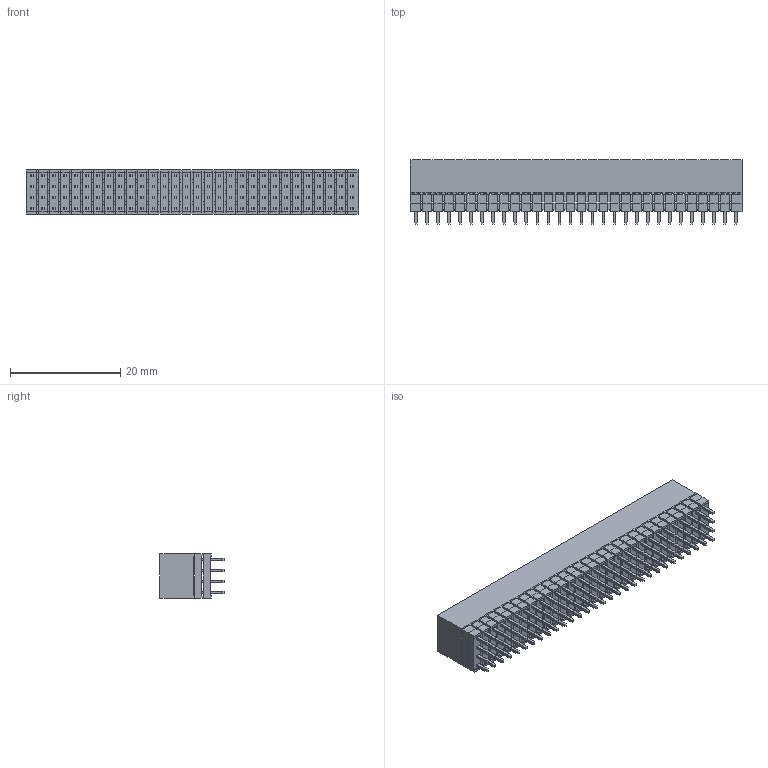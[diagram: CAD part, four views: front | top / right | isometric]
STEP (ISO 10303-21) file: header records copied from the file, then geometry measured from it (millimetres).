
FILE_DESCRIPTION((''),'2;1');
FILE_NAME('M22-6013005_ASM','2013-10-10T',('sbennett'),(''),'PRO/ENGINEER BY PARAMETRIC TECHNOLOGY CORPORATION, 2013150','PRO/ENGINEER BY PARAMETRIC TECHNOLOGY CORPORATION, 2013150','');
FILE_SCHEMA(('CONFIG_CONTROL_DESIGN'));
Products named in the file (4): M22-60030_MOULD; M22-601_CONTACT; M22-60030_MOULD_BOTTOM; M22-6013005_ASM
Assembly tree (123 placements, depth 2):
  M22-6013005_ASM
    M22-60030_MOULD
    M22-601_CONTACT  x120
    M22-60030_MOULD_BOTTOM  x2
Bounding box: 60.2 x 11.63 x 8 mm (x, y, z)
Volume: 3736.8 mm3; surface area: 11731.3 mm2
Topology: 123 solids, 123 shells, 7058 faces, 19608 edges, 12912 vertices
Faces by surface type: plane 6698, cylinder 360
Entity records: 118848 total; most frequent: CARTESIAN_POINT 16595, ORIENTED_EDGE 16404, DIRECTION 14378, PRESENTATION_STYLE_ASSIGNMENT 8205, STYLED_ITEM 8205, CURVE_STYLE 8202, EDGE_CURVE 8202, VECTOR 8196
